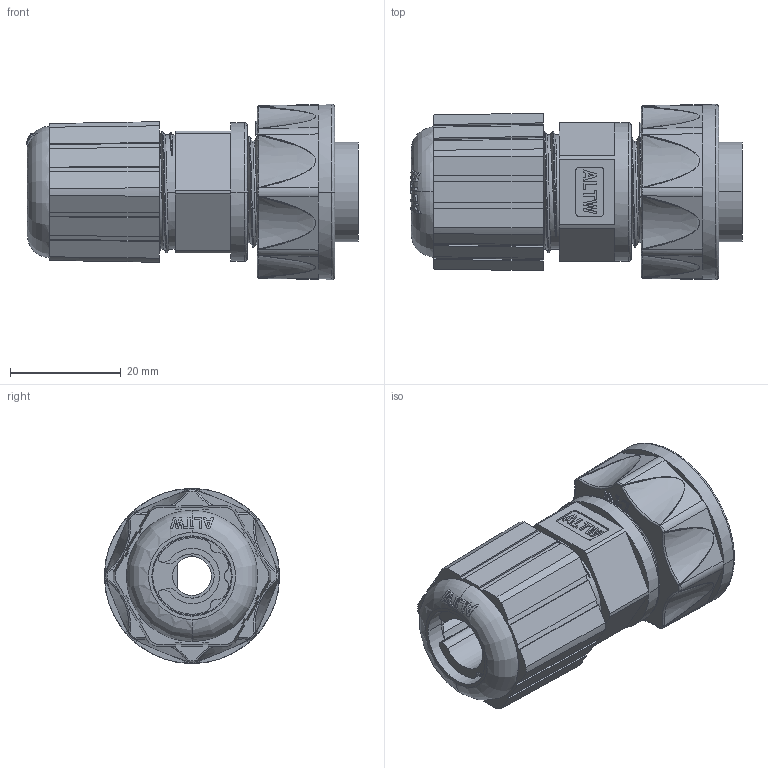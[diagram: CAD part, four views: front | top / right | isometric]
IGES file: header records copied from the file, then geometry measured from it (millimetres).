
Start section:  PTC IGES file: RJ-00BMMA-SL7003-IGS.igs
Global section: file name: RJ-00BMMA-SL7003-IGS.igs; native system: Creo Parametric by Parametric Technology Corporation; preprocessor: 2017170; author: L210038; organization: Unknown; date: 20211101.111209; units: millimetre
Bounding box: 59.95 x 31.64 x 31.64 mm (x, y, z)
Volume: 20458.9 mm3; surface area: 18593.8 mm2
Topology: 2 solids, 2 shells, 878 faces, 2443 edges, 1586 vertices
Faces by surface type: bspline 613, revolution 210, extrusion 55
